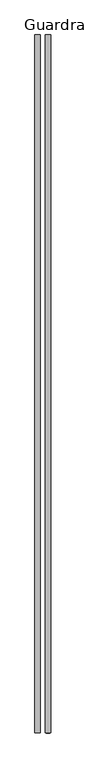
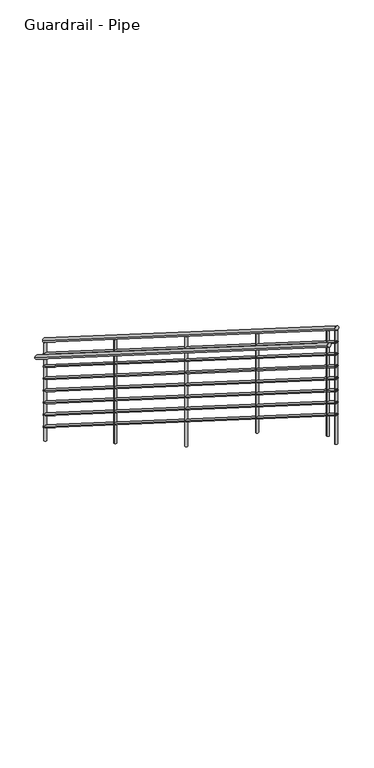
"""IFC4 building model written with IfcOpenShell, lengths in millimetres: railing geometry, Guardrail - Pipe."""

from ifc_helpers import new_model, si_unit, frame, origin, place, context, project, spatial, circle_curve, ellipse_curve, source, transform, mapped, element, save
from ifc_brep_helpers import plane_surface, cylinder_surface, advanced_brep


def guardrail_pipe_0cfc6b11(model_context):
    return source(origin(), model_context, "Body", "AdvancedBrep", [
        advanced_brep(
        [(-21120.8977721, 4514.4811943, 1220.7318155), (-21082.7977721, 4514.4811943, 1220.7318155), (-21120.8977721, -514.7188057, 4397.0686576), (-21082.7977721, -514.7188057, 4397.0686576)],
        [
            (0, 1, ellipse_curve(frame((-21101.8477721, 4514.4811943, 1220.7318155), z_axis=(0.0, 1.0, 0.0), x_axis=(0.0, 0.0, -1.0)), 22.5313424, 19.05)),
            (1, 0, ellipse_curve(frame((-21101.8477721, 4514.4811943, 1220.7318155), z_axis=(0.0, 1.0, 0.0), x_axis=(0.0, 0.0, -1.0)), 22.5313424, 19.05)),
            (2, 3, ellipse_curve(frame((-21101.8477721, -514.7188057, 4397.0686576), z_axis=(0.0, -1.0, 0.0), x_axis=(0.0, 0.0, -1.0)), 22.5313424, 19.05)),
            (3, 2, ellipse_curve(frame((-21101.8477721, -514.7188057, 4397.0686576), z_axis=(0.0, -1.0, 0.0), x_axis=(0.0, 0.0, -1.0)), 22.5313424, 19.05)),
            (0, 2),
            (3, 1),
        ],
        [
            plane_surface(frame((-21101.8477721, 4514.4811943, 1243.2631579), z_axis=(0.0, 1.0, 0.0), x_axis=(0.0, 0.0, -1.0))),
            plane_surface(frame((-21101.8477721, -514.7188057, 4419.6), z_axis=(0.0, -1.0, 0.0), x_axis=(0.0, 0.0, -1.0))),
            cylinder_surface(frame((-21101.8477721, 4504.3086279, 1227.1565943), z_axis=(0.0, 0.8454889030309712, -0.5339929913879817), x_axis=(1.0, 0.0, 0.0)), 19.05),
        ],
        [
            (0, [[1, 2]]),
            (1, [[3, 4]]),
            (2, [[-1, 5, -4, 6]]),
            (2, [[-2, -6, -3, -5]]),
        ],
    ),
        advanced_brep(
        [(-21114.5477721, 4514.4811943, 1075.8422629), (-21089.1477721, 4514.4811943, 1075.8422629), (-21114.5477721, -514.7188057, 4252.179105), (-21089.1477721, -514.7188057, 4252.179105)],
        [
            (0, 1, ellipse_curve(frame((-21101.8477721, 4514.4811943, 1075.8422629), z_axis=(0.0, 1.0, 0.0), x_axis=(0.0, 0.0, -1.0)), 15.020895, 12.7)),
            (1, 0, ellipse_curve(frame((-21101.8477721, 4514.4811943, 1075.8422629), z_axis=(0.0, 1.0, 0.0), x_axis=(0.0, 0.0, -1.0)), 15.020895, 12.7)),
            (2, 3, ellipse_curve(frame((-21101.8477721, -514.7188057, 4252.179105), z_axis=(0.0, -1.0, 0.0), x_axis=(0.0, 0.0, -1.0)), 15.020895, 12.7)),
            (3, 2, ellipse_curve(frame((-21101.8477721, -514.7188057, 4252.179105), z_axis=(0.0, -1.0, 0.0), x_axis=(0.0, 0.0, -1.0)), 15.020895, 12.7)),
            (0, 2),
            (3, 1),
        ],
        [
            plane_surface(frame((-21101.8477721, 4514.4811943, 1090.8631579), z_axis=(0.0, 1.0, 0.0), x_axis=(0.0, 0.0, -1.0))),
            plane_surface(frame((-21101.8477721, -514.7188057, 4267.2), z_axis=(0.0, -1.0, 0.0), x_axis=(0.0, 0.0, -1.0))),
            cylinder_surface(frame((-21101.8477721, 4507.6994834, 1080.1254488), z_axis=(0.0, 0.8454889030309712, -0.5339929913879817), x_axis=(1.0, 0.0, 0.0)), 12.7),
        ],
        [
            (0, [[1, 2]]),
            (1, [[3, 4]]),
            (2, [[-1, 5, -4, 6]]),
            (2, [[-2, -6, -3, -5]]),
        ],
    ),
        advanced_brep(
        [(-21197.0977721, 4514.4811943, 1068.3318155), (-21158.9977721, 4514.4811943, 1068.3318155), (-21197.0977721, -514.7188057, 4244.6686576), (-21158.9977721, -514.7188057, 4244.6686576)],
        [
            (0, 1, ellipse_curve(frame((-21178.0477721, 4514.4811943, 1068.3318155), z_axis=(0.0, 1.0, 0.0), x_axis=(0.0, 0.0, -1.0)), 22.5313424, 19.05)),
            (1, 0, ellipse_curve(frame((-21178.0477721, 4514.4811943, 1068.3318155), z_axis=(0.0, 1.0, 0.0), x_axis=(0.0, 0.0, -1.0)), 22.5313424, 19.05)),
            (2, 3, ellipse_curve(frame((-21178.0477721, -514.7188057, 4244.6686576), z_axis=(0.0, -1.0, 0.0), x_axis=(0.0, 0.0, -1.0)), 22.5313424, 19.05)),
            (3, 2, ellipse_curve(frame((-21178.0477721, -514.7188057, 4244.6686576), z_axis=(0.0, -1.0, 0.0), x_axis=(0.0, 0.0, -1.0)), 22.5313424, 19.05)),
            (0, 2),
            (3, 1),
        ],
        [
            plane_surface(frame((-21178.0477721, 4514.4811943, 1090.8631579), z_axis=(0.0, 1.0, 0.0), x_axis=(0.0, 0.0, -1.0))),
            plane_surface(frame((-21178.0477721, -514.7188057, 4267.2), z_axis=(0.0, -1.0, 0.0), x_axis=(0.0, 0.0, -1.0))),
            cylinder_surface(frame((-21178.0477721, 4504.3086279, 1074.7565943), z_axis=(0.0, 0.8454889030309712, -0.5339929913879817), x_axis=(1.0, 0.0, 0.0)), 19.05),
        ],
        [
            (0, [[1, 2]]),
            (1, [[3, 4]]),
            (2, [[-1, 5, -4, 6]]),
            (2, [[-2, -6, -3, -5]]),
        ],
    ),
        advanced_brep(
        [(-21114.5477721, 4514.4811943, 948.8422629), (-21089.1477721, 4514.4811943, 948.8422629), (-21114.5477721, -514.7188057, 4125.179105), (-21089.1477721, -514.7188057, 4125.179105)],
        [
            (0, 1, ellipse_curve(frame((-21101.8477721, 4514.4811943, 948.8422629), z_axis=(0.0, 1.0, 0.0), x_axis=(0.0, 0.0, -1.0)), 15.020895, 12.7)),
            (1, 0, ellipse_curve(frame((-21101.8477721, 4514.4811943, 948.8422629), z_axis=(0.0, 1.0, 0.0), x_axis=(0.0, 0.0, -1.0)), 15.020895, 12.7)),
            (2, 3, ellipse_curve(frame((-21101.8477721, -514.7188057, 4125.179105), z_axis=(0.0, -1.0, 0.0), x_axis=(0.0, 0.0, -1.0)), 15.020895, 12.7)),
            (3, 2, ellipse_curve(frame((-21101.8477721, -514.7188057, 4125.179105), z_axis=(0.0, -1.0, 0.0), x_axis=(0.0, 0.0, -1.0)), 15.020895, 12.7)),
            (0, 2),
            (3, 1),
        ],
        [
            plane_surface(frame((-21101.8477721, 4514.4811943, 963.8631579), z_axis=(0.0, 1.0, 0.0), x_axis=(0.0, 0.0, -1.0))),
            plane_surface(frame((-21101.8477721, -514.7188057, 4140.2), z_axis=(0.0, -1.0, 0.0), x_axis=(0.0, 0.0, -1.0))),
            cylinder_surface(frame((-21101.8477721, 4507.6994834, 953.1254488), z_axis=(0.0, 0.8454889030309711, -0.5339929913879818), x_axis=(1.0, 0.0, 0.0)), 12.7),
        ],
        [
            (0, [[1, 2]]),
            (1, [[3, 4]]),
            (2, [[-1, 5, -4, 6]]),
            (2, [[-2, -6, -3, -5]]),
        ],
    ),
        advanced_brep(
        [(-21114.5477721, 4514.4811943, 821.8422629), (-21089.1477721, 4514.4811943, 821.8422629), (-21114.5477721, -514.7188057, 3998.179105), (-21089.1477721, -514.7188057, 3998.179105)],
        [
            (0, 1, ellipse_curve(frame((-21101.8477721, 4514.4811943, 821.8422629), z_axis=(0.0, 1.0, 0.0), x_axis=(0.0, 0.0, -1.0)), 15.020895, 12.7)),
            (1, 0, ellipse_curve(frame((-21101.8477721, 4514.4811943, 821.8422629), z_axis=(0.0, 1.0, 0.0), x_axis=(0.0, 0.0, -1.0)), 15.020895, 12.7)),
            (2, 3, ellipse_curve(frame((-21101.8477721, -514.7188057, 3998.179105), z_axis=(0.0, -1.0, 0.0), x_axis=(0.0, 0.0, -1.0)), 15.020895, 12.7)),
            (3, 2, ellipse_curve(frame((-21101.8477721, -514.7188057, 3998.179105), z_axis=(0.0, -1.0, 0.0), x_axis=(0.0, 0.0, -1.0)), 15.020895, 12.7)),
            (0, 2),
            (3, 1),
        ],
        [
            plane_surface(frame((-21101.8477721, 4514.4811943, 836.8631579), z_axis=(0.0, 1.0, 0.0), x_axis=(0.0, 0.0, -1.0))),
            plane_surface(frame((-21101.8477721, -514.7188057, 4013.2), z_axis=(0.0, -1.0, 0.0), x_axis=(0.0, 0.0, -1.0))),
            cylinder_surface(frame((-21101.8477721, 4507.6994834, 826.1254488), z_axis=(0.0, 0.8454889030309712, -0.5339929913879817), x_axis=(1.0, 0.0, 0.0)), 12.7),
        ],
        [
            (0, [[1, 2]]),
            (1, [[3, 4]]),
            (2, [[-1, 5, -4, 6]]),
            (2, [[-2, -6, -3, -5]]),
        ],
    ),
        advanced_brep(
        [(-21114.5477721, 4514.4811943, 694.8422629), (-21089.1477721, 4514.4811943, 694.8422629), (-21114.5477721, -514.7188057, 3871.179105), (-21089.1477721, -514.7188057, 3871.179105)],
        [
            (0, 1, ellipse_curve(frame((-21101.8477721, 4514.4811943, 694.8422629), z_axis=(0.0, 1.0, 0.0), x_axis=(0.0, 0.0, -1.0)), 15.020895, 12.7)),
            (1, 0, ellipse_curve(frame((-21101.8477721, 4514.4811943, 694.8422629), z_axis=(0.0, 1.0, 0.0), x_axis=(0.0, 0.0, -1.0)), 15.020895, 12.7)),
            (2, 3, ellipse_curve(frame((-21101.8477721, -514.7188057, 3871.179105), z_axis=(0.0, -1.0, 0.0), x_axis=(0.0, 0.0, -1.0)), 15.020895, 12.7)),
            (3, 2, ellipse_curve(frame((-21101.8477721, -514.7188057, 3871.179105), z_axis=(0.0, -1.0, 0.0), x_axis=(0.0, 0.0, -1.0)), 15.020895, 12.7)),
            (0, 2),
            (3, 1),
        ],
        [
            plane_surface(frame((-21101.8477721, 4514.4811943, 709.8631579), z_axis=(0.0, 1.0, 0.0), x_axis=(0.0, 0.0, -1.0))),
            plane_surface(frame((-21101.8477721, -514.7188057, 3886.2), z_axis=(0.0, -1.0, 0.0), x_axis=(0.0, 0.0, -1.0))),
            cylinder_surface(frame((-21101.8477721, 4507.6994834, 699.1254488), z_axis=(0.0, 0.8454889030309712, -0.5339929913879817), x_axis=(1.0, 0.0, 0.0)), 12.7),
        ],
        [
            (0, [[1, 2]]),
            (1, [[3, 4]]),
            (2, [[-1, 5, -4, 6]]),
            (2, [[-2, -6, -3, -5]]),
        ],
    ),
        advanced_brep(
        [(-21114.5477721, 4514.4811943, 567.8422629), (-21089.1477721, 4514.4811943, 567.8422629), (-21114.5477721, -514.7188057, 3744.179105), (-21089.1477721, -514.7188057, 3744.179105)],
        [
            (0, 1, ellipse_curve(frame((-21101.8477721, 4514.4811943, 567.8422629), z_axis=(0.0, 1.0, 0.0), x_axis=(0.0, 0.0, -1.0)), 15.020895, 12.7)),
            (1, 0, ellipse_curve(frame((-21101.8477721, 4514.4811943, 567.8422629), z_axis=(0.0, 1.0, 0.0), x_axis=(0.0, 0.0, -1.0)), 15.020895, 12.7)),
            (2, 3, ellipse_curve(frame((-21101.8477721, -514.7188057, 3744.179105), z_axis=(0.0, -1.0, 0.0), x_axis=(0.0, 0.0, -1.0)), 15.020895, 12.7)),
            (3, 2, ellipse_curve(frame((-21101.8477721, -514.7188057, 3744.179105), z_axis=(0.0, -1.0, 0.0), x_axis=(0.0, 0.0, -1.0)), 15.020895, 12.7)),
            (0, 2),
            (3, 1),
        ],
        [
            plane_surface(frame((-21101.8477721, 4514.4811943, 582.8631579), z_axis=(0.0, 1.0, 0.0), x_axis=(0.0, 0.0, -1.0))),
            plane_surface(frame((-21101.8477721, -514.7188057, 3759.2), z_axis=(0.0, -1.0, 0.0), x_axis=(0.0, 0.0, -1.0))),
            cylinder_surface(frame((-21101.8477721, 4507.6994834, 572.1254488), z_axis=(0.0, 0.8454889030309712, -0.5339929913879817), x_axis=(1.0, 0.0, 0.0)), 12.7),
        ],
        [
            (0, [[1, 2]]),
            (1, [[3, 4]]),
            (2, [[-1, 5, -4, 6]]),
            (2, [[-2, -6, -3, -5]]),
        ],
    ),
        advanced_brep(
        [(-21114.5477721, 4514.4811943, 440.8422629), (-21089.1477721, 4514.4811943, 440.8422629), (-21114.5477721, -514.7188057, 3617.179105), (-21089.1477721, -514.7188057, 3617.179105)],
        [
            (0, 1, ellipse_curve(frame((-21101.8477721, 4514.4811943, 440.8422629), z_axis=(0.0, 1.0, 0.0), x_axis=(0.0, 0.0, -1.0)), 15.020895, 12.7)),
            (1, 0, ellipse_curve(frame((-21101.8477721, 4514.4811943, 440.8422629), z_axis=(0.0, 1.0, 0.0), x_axis=(0.0, 0.0, -1.0)), 15.020895, 12.7)),
            (2, 3, ellipse_curve(frame((-21101.8477721, -514.7188057, 3617.179105), z_axis=(0.0, -1.0, 0.0), x_axis=(0.0, 0.0, -1.0)), 15.020895, 12.7)),
            (3, 2, ellipse_curve(frame((-21101.8477721, -514.7188057, 3617.179105), z_axis=(0.0, -1.0, 0.0), x_axis=(0.0, 0.0, -1.0)), 15.020895, 12.7)),
            (0, 2),
            (3, 1),
        ],
        [
            plane_surface(frame((-21101.8477721, 4514.4811943, 455.8631579), z_axis=(0.0, 1.0, 0.0), x_axis=(0.0, 0.0, -1.0))),
            plane_surface(frame((-21101.8477721, -514.7188057, 3632.2), z_axis=(0.0, -1.0, 0.0), x_axis=(0.0, 0.0, -1.0))),
            cylinder_surface(frame((-21101.8477721, 4507.6994834, 445.1254488), z_axis=(0.0, 0.8454889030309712, -0.5339929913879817), x_axis=(1.0, 0.0, 0.0)), 12.7),
        ],
        [
            (0, [[1, 2]]),
            (1, [[3, 4]]),
            (2, [[-1, 5, -4, 6]]),
            (2, [[-2, -6, -3, -5]]),
        ],
    ),
        advanced_brep(
        [(-21114.5477721, 4514.4811943, 313.8422629), (-21089.1477721, 4514.4811943, 313.8422629), (-21114.5477721, -514.7188057, 3490.179105), (-21089.1477721, -514.7188057, 3490.179105)],
        [
            (0, 1, ellipse_curve(frame((-21101.8477721, 4514.4811943, 313.8422629), z_axis=(0.0, 1.0, 0.0), x_axis=(0.0, 0.0, -1.0)), 15.020895, 12.7)),
            (1, 0, ellipse_curve(frame((-21101.8477721, 4514.4811943, 313.8422629), z_axis=(0.0, 1.0, 0.0), x_axis=(0.0, 0.0, -1.0)), 15.020895, 12.7)),
            (2, 3, ellipse_curve(frame((-21101.8477721, -514.7188057, 3490.179105), z_axis=(0.0, -1.0, 0.0), x_axis=(0.0, 0.0, -1.0)), 15.020895, 12.7)),
            (3, 2, ellipse_curve(frame((-21101.8477721, -514.7188057, 3490.179105), z_axis=(0.0, -1.0, 0.0), x_axis=(0.0, 0.0, -1.0)), 15.020895, 12.7)),
            (0, 2),
            (3, 1),
        ],
        [
            plane_surface(frame((-21101.8477721, 4514.4811943, 328.8631579), z_axis=(0.0, 1.0, 0.0), x_axis=(0.0, 0.0, -1.0))),
            plane_surface(frame((-21101.8477721, -514.7188057, 3505.2), z_axis=(0.0, -1.0, 0.0), x_axis=(0.0, 0.0, -1.0))),
            cylinder_surface(frame((-21101.8477721, 4507.6994834, 318.1254488), z_axis=(0.0, 0.8454889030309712, -0.5339929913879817), x_axis=(1.0, 0.0, 0.0)), 12.7),
        ],
        [
            (0, [[1, 2]]),
            (1, [[3, 4]]),
            (2, [[-1, 5, -4, 6]]),
            (2, [[-2, -6, -3, -5]]),
        ],
    ),
        advanced_brep(
        [(-21089.1477721, -362.3188057, 4278.2846835), (-21114.5477721, -362.3188057, 4278.2846835), (-21114.5477721, -362.3188057, 3176.3368421), (-21089.1477721, -362.3188057, 3176.3368421)],
        [
            (0, 1, ellipse_curve(frame((-21101.8477721, -362.3188057, 4278.2846835), z_axis=(0.0, -0.5339929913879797, -0.8454889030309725), x_axis=(0.0, -0.8454889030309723, 0.5339929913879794)), 15.020895, 12.7)),
            (1, 2),
            (2, 3, circle_curve(frame((-21101.8477721, -362.3188057, 3176.3368421), z_axis=(0.0, 0.0, 1.0), x_axis=(-1.0, 0.0, 0.0)), 12.7)),
            (3, 0),
            (3, 2, circle_curve(frame((-21101.8477721, -362.3188057, 3176.3368421), z_axis=(0.0, 0.0, 1.0), x_axis=(-1.0, 0.0, 0.0)), 12.7)),
            (1, 0, ellipse_curve(frame((-21101.8477721, -362.3188057, 4278.2846835), z_axis=(0.0, -0.5339929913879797, -0.8454889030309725), x_axis=(0.0, -0.8454889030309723, 0.5339929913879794)), 15.020895, 12.7)),
        ],
        [
            cylinder_surface(frame((-21101.8477721, -362.3188057, 2947.7368421), z_axis=(0.0, 0.0, 1.0), x_axis=(-1.0, 0.0, 0.0)), 12.7),
            plane_surface(frame((-21127.2477721, -387.7188057, 4294.3267888), z_axis=(0.0, 0.5339929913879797, 0.8454889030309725), x_axis=(1.0, 0.0, 0.0))),
            plane_surface(frame((-21127.2477721, -336.9188057, 3176.3368421), z_axis=(0.0, 0.0, -1.0), x_axis=(1.0, 0.0, 0.0))),
        ],
        [
            (0, [[1, 2, 3, 4]]),
            (0, [[5, -2, 6, -4]]),
            (1, [[-6, -1]]),
            (2, [[-5, -3]]),
        ],
    ),
        advanced_brep(
        [(-21089.1477721, 856.8811943, 3508.2636309), (-21114.5477721, 856.8811943, 3508.2636309), (-21114.5477721, 856.8811943, 2470.4842105), (-21089.1477721, 856.8811943, 2470.4842105)],
        [
            (0, 1, ellipse_curve(frame((-21101.8477721, 856.8811943, 3508.2636309), z_axis=(0.0, -0.5339929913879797, -0.8454889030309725), x_axis=(0.0, -0.8454889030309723, 0.5339929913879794)), 15.020895, 12.7)),
            (1, 2),
            (2, 3, circle_curve(frame((-21101.8477721, 856.8811943, 2470.4842105), z_axis=(0.0, 0.0, 1.0), x_axis=(-1.0, 0.0, 0.0)), 12.7)),
            (3, 0),
            (3, 2, circle_curve(frame((-21101.8477721, 856.8811943, 2470.4842105), z_axis=(0.0, 0.0, 1.0), x_axis=(-1.0, 0.0, 0.0)), 12.7)),
            (1, 0, ellipse_curve(frame((-21101.8477721, 856.8811943, 3508.2636309), z_axis=(0.0, -0.5339929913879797, -0.8454889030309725), x_axis=(0.0, -0.8454889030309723, 0.5339929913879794)), 15.020895, 12.7)),
        ],
        [
            cylinder_surface(frame((-21101.8477721, 856.8811943, 2241.8842105), z_axis=(0.0, 0.0, 1.0), x_axis=(-1.0, 0.0, 0.0)), 12.7),
            plane_surface(frame((-21127.2477721, 831.4811943, 3524.3057362), z_axis=(0.0, 0.5339929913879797, 0.8454889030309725), x_axis=(1.0, 0.0, 0.0))),
            plane_surface(frame((-21127.2477721, 882.2811943, 2470.4842105), z_axis=(0.0, 0.0, -1.0), x_axis=(1.0, 0.0, 0.0))),
        ],
        [
            (0, [[1, 2, 3, 4]]),
            (0, [[5, -2, 6, -4]]),
            (1, [[-6, -1]]),
            (2, [[-5, -3]]),
        ],
    ),
        advanced_brep(
        [(-21089.1477721, 2076.0811943, 2738.2425783), (-21114.5477721, 2076.0811943, 2738.2425783), (-21114.5477721, 2076.0811943, 1588.1684211), (-21089.1477721, 2076.0811943, 1588.1684211)],
        [
            (0, 1, ellipse_curve(frame((-21101.8477721, 2076.0811943, 2738.2425783), z_axis=(0.0, -0.5339929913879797, -0.8454889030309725), x_axis=(0.0, -0.8454889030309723, 0.5339929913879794)), 15.020895, 12.7)),
            (1, 2),
            (2, 3, circle_curve(frame((-21101.8477721, 2076.0811943, 1588.1684211), z_axis=(0.0, 0.0, 1.0), x_axis=(-1.0, 0.0, 0.0)), 12.7)),
            (3, 0),
            (3, 2, circle_curve(frame((-21101.8477721, 2076.0811943, 1588.1684211), z_axis=(0.0, 0.0, 1.0), x_axis=(-1.0, 0.0, 0.0)), 12.7)),
            (1, 0, ellipse_curve(frame((-21101.8477721, 2076.0811943, 2738.2425783), z_axis=(0.0, -0.5339929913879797, -0.8454889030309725), x_axis=(0.0, -0.8454889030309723, 0.5339929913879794)), 15.020895, 12.7)),
        ],
        [
            cylinder_surface(frame((-21101.8477721, 2076.0811943, 1359.5684211), z_axis=(0.0, 0.0, 1.0), x_axis=(-1.0, 0.0, 0.0)), 12.7),
            plane_surface(frame((-21127.2477721, 2050.6811943, 2754.2846835), z_axis=(0.0, 0.5339929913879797, 0.8454889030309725), x_axis=(1.0, 0.0, 0.0))),
            plane_surface(frame((-21127.2477721, 2101.4811943, 1588.1684211), z_axis=(0.0, 0.0, -1.0), x_axis=(1.0, 0.0, 0.0))),
        ],
        [
            (0, [[1, 2, 3, 4]]),
            (0, [[5, -2, 6, -4]]),
            (1, [[-6, -1]]),
            (2, [[-5, -3]]),
        ],
    ),
        advanced_brep(
        [(-21089.1477721, 3295.2811943, 1968.2215257), (-21114.5477721, 3295.2811943, 1968.2215257), (-21114.5477721, 3295.2811943, 882.3157895), (-21089.1477721, 3295.2811943, 882.3157895)],
        [
            (0, 1, ellipse_curve(frame((-21101.8477721, 3295.2811943, 1968.2215257), z_axis=(0.0, -0.5339929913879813, -0.8454889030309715), x_axis=(0.0, -0.8454889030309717, 0.5339929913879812)), 15.020895, 12.7)),
            (1, 2),
            (2, 3, circle_curve(frame((-21101.8477721, 3295.2811943, 882.3157895), z_axis=(0.0, 0.0, 1.0), x_axis=(-1.0, 0.0, 0.0)), 12.7)),
            (3, 0),
            (3, 2, circle_curve(frame((-21101.8477721, 3295.2811943, 882.3157895), z_axis=(0.0, 0.0, 1.0), x_axis=(-1.0, 0.0, 0.0)), 12.7)),
            (1, 0, ellipse_curve(frame((-21101.8477721, 3295.2811943, 1968.2215257), z_axis=(0.0, -0.5339929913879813, -0.8454889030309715), x_axis=(0.0, -0.8454889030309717, 0.5339929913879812)), 15.020895, 12.7)),
        ],
        [
            cylinder_surface(frame((-21101.8477721, 3295.2811943, 653.7157895), z_axis=(0.0, 0.0, 1.0), x_axis=(-1.0, 0.0, 0.0)), 12.7),
            plane_surface(frame((-21127.2477721, 3269.8811943, 1984.2636309), z_axis=(0.0, 0.5339929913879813, 0.8454889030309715), x_axis=(1.0, 0.0, 0.0))),
            plane_surface(frame((-21127.2477721, 3320.6811943, 882.3157895), z_axis=(0.0, 0.0, -1.0), x_axis=(1.0, 0.0, 0.0))),
        ],
        [
            (0, [[1, 2, 3, 4]]),
            (0, [[5, -2, 6, -4]]),
            (1, [[-6, -1]]),
            (2, [[-5, -3]]),
        ],
    ),
        advanced_brep(
        [(-21089.1477721, -502.0188057, 4366.5162625), (-21114.5477721, -502.0188057, 4366.5162625), (-21114.5477721, -502.0188057, 3176.3368421), (-21089.1477721, -502.0188057, 3176.3368421)],
        [
            (0, 1, ellipse_curve(frame((-21101.8477721, -502.0188057, 4366.5162625), z_axis=(0.0, -0.5339929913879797, -0.8454889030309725), x_axis=(0.0, -0.8454889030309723, 0.5339929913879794)), 15.020895, 12.7)),
            (1, 2),
            (2, 3, circle_curve(frame((-21101.8477721, -502.0188057, 3176.3368421), z_axis=(0.0, 0.0, 1.0), x_axis=(-1.0, 0.0, 0.0)), 12.7)),
            (3, 0),
            (3, 2, circle_curve(frame((-21101.8477721, -502.0188057, 3176.3368421), z_axis=(0.0, 0.0, 1.0), x_axis=(-1.0, 0.0, 0.0)), 12.7)),
            (1, 0, ellipse_curve(frame((-21101.8477721, -502.0188057, 4366.5162625), z_axis=(0.0, -0.5339929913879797, -0.8454889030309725), x_axis=(0.0, -0.8454889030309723, 0.5339929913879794)), 15.020895, 12.7)),
        ],
        [
            cylinder_surface(frame((-21101.8477721, -502.0188057, 2947.7368421), z_axis=(0.0, 0.0, 1.0), x_axis=(-1.0, 0.0, 0.0)), 12.7),
            plane_surface(frame((-21127.2477721, -527.4188057, 4382.5583678), z_axis=(0.0, 0.5339929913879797, 0.8454889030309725), x_axis=(1.0, 0.0, 0.0))),
            plane_surface(frame((-21127.2477721, -476.6188057, 3176.3368421), z_axis=(0.0, 0.0, -1.0), x_axis=(1.0, 0.0, 0.0))),
        ],
        [
            (0, [[1, 2, 3, 4]]),
            (0, [[5, -2, 6, -4]]),
            (1, [[-6, -1]]),
            (2, [[-5, -3]]),
        ],
    ),
        advanced_brep(
        [(-21089.1477721, 4501.7811943, 1206.2215257), (-21114.5477721, 4501.7811943, 1206.2215257), (-21114.5477721, 4501.7811943, 176.4631579), (-21089.1477721, 4501.7811943, 176.4631579)],
        [
            (0, 1, ellipse_curve(frame((-21101.8477721, 4501.7811943, 1206.2215257), z_axis=(0.0, -0.5339929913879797, -0.8454889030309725), x_axis=(0.0, -0.8454889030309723, 0.5339929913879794)), 15.020895, 12.7)),
            (1, 2),
            (2, 3, circle_curve(frame((-21101.8477721, 4501.7811943, 176.4631579), z_axis=(0.0, 0.0, 1.0), x_axis=(-1.0, 0.0, 0.0)), 12.7)),
            (3, 0),
            (3, 2, circle_curve(frame((-21101.8477721, 4501.7811943, 176.4631579), z_axis=(0.0, 0.0, 1.0), x_axis=(-1.0, 0.0, 0.0)), 12.7)),
            (1, 0, ellipse_curve(frame((-21101.8477721, 4501.7811943, 1206.2215257), z_axis=(0.0, -0.5339929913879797, -0.8454889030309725), x_axis=(0.0, -0.8454889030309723, 0.5339929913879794)), 15.020895, 12.7)),
        ],
        [
            cylinder_surface(frame((-21101.8477721, 4501.7811943, -52.1368421), z_axis=(0.0, 0.0, 1.0), x_axis=(-1.0, 0.0, 0.0)), 12.7),
            plane_surface(frame((-21127.2477721, 4476.3811943, 1222.2636309), z_axis=(0.0, 0.5339929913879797, 0.8454889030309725), x_axis=(1.0, 0.0, 0.0))),
            plane_surface(frame((-21127.2477721, 4527.1811943, 176.4631579), z_axis=(0.0, 0.0, -1.0), x_axis=(1.0, 0.0, 0.0))),
        ],
        [
            (0, [[1, 2, 3, 4]]),
            (0, [[5, -2, 6, -4]]),
            (1, [[-6, -1]]),
            (2, [[-5, -3]]),
        ],
    ),
    ])


if __name__ == "__main__":
    model = new_model("IFC4")
    model_context = context("Model", 3, world=origin())
    ifc_project = project(units=[si_unit("LENGTHUNIT", "METRE", prefix="MILLI")], contexts=[model_context])
    site = spatial("IfcSite", under=ifc_project)
    building = spatial("IfcBuilding", under=site)
    placement = place(None, origin())
    guardrail_pipe_shape = guardrail_pipe_0cfc6b11(model_context)
    element("IfcRailing", 1, ObjectType="Guardrail - Pipe", at=placement, inside=building, context=model_context, shape_type="MappedRepresentation", body=[
        mapped(guardrail_pipe_shape, transform((0.0, 0.0, 0.0), x_axis=(1.0, 0.0, 0.0), y_axis=(0.0, 1.0, 0.0), z_axis=(0.0, 0.0, 1.0))),
    ])
    save(model, "model.ifc")
